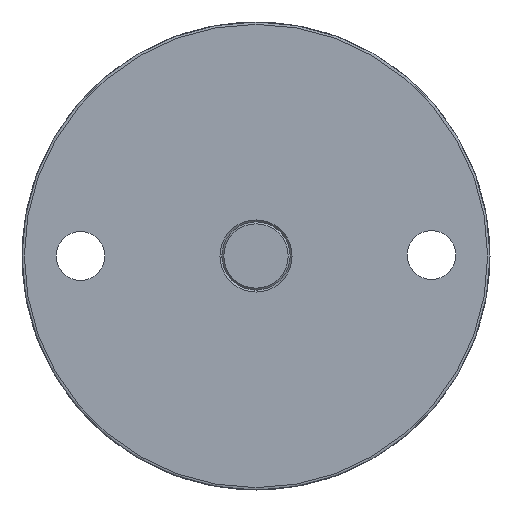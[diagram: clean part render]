
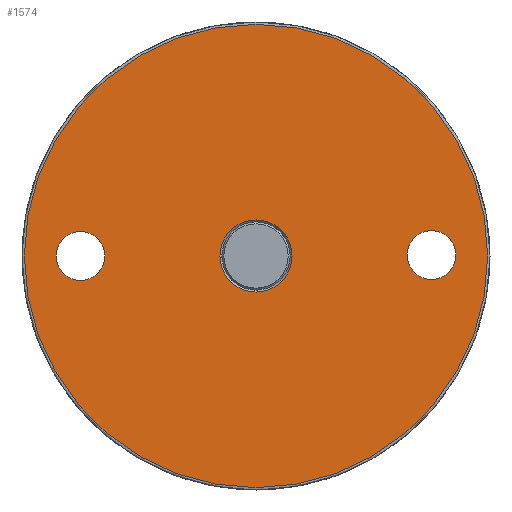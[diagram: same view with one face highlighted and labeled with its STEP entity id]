
A CAD part, left-side view. The second image highlights one B-rep face of the part: STEP entity #1574.
In plain terms, the highlighted planar face has unit normal (-1, 0, 0).
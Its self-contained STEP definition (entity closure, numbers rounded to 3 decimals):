
#1425=CARTESIAN_POINT('',(-523.608,-488.109,59.422));
#1426=VERTEX_POINT('',#1425);
#1434=CARTESIAN_POINT('',(-523.608,-488.109,-59.378));
#1435=VERTEX_POINT('',#1434);
#1436=CARTESIAN_POINT('',(-523.608,-488.109,0.022));
#1437=DIRECTION('',(-1.0,0.0,0.0));
#1438=DIRECTION('',(0.0,0.0,1.0));
#1439=AXIS2_PLACEMENT_3D('',#1436,#1437,#1438);
#1440=CIRCLE('',#1439,59.4);
#1441=EDGE_CURVE('',#1435,#1426,#1440,.T.);
#1443=CARTESIAN_POINT('',(-523.608,-488.109,0.022));
#1444=DIRECTION('',(-1.0,0.0,0.0));
#1445=DIRECTION('',(0.0,0.0,1.0));
#1446=AXIS2_PLACEMENT_3D('',#1443,#1444,#1445);
#1447=CIRCLE('',#1446,59.4);
#1448=EDGE_CURVE('',#1426,#1435,#1447,.T.);
#1505=CARTESIAN_POINT('',(-523.608,-606.909,118.822));
#1506=DIRECTION('',(-1.0,0.0,0.0));
#1507=DIRECTION('',(0.0,1.0,0.0));
#1508=AXIS2_PLACEMENT_3D('',#1505,#1506,#1507);
#1509=PLANE('',#1508);
#1510=ORIENTED_EDGE('',*,*,#1448,.T.);
#1511=ORIENTED_EDGE('',*,*,#1441,.T.);
#1512=EDGE_LOOP('',(#1510,#1511));
#1513=FACE_OUTER_BOUND('',#1512,.T.);
#1514=CARTESIAN_POINT('',(-523.608,-478.859,0.022));
#1515=VERTEX_POINT('',#1514);
#1516=CARTESIAN_POINT('',(-523.608,-497.359,0.022));
#1517=VERTEX_POINT('',#1516);
#1518=CARTESIAN_POINT('',(-523.608,-488.109,0.022));
#1519=DIRECTION('',(1.0,0.0,0.0));
#1520=DIRECTION('',(0.0,1.0,0.0));
#1521=AXIS2_PLACEMENT_3D('',#1518,#1519,#1520);
#1522=CIRCLE('',#1521,9.25);
#1523=EDGE_CURVE('',#1515,#1517,#1522,.T.);
#1524=ORIENTED_EDGE('',*,*,#1523,.T.);
#1525=CARTESIAN_POINT('',(-523.608,-488.109,0.022));
#1526=DIRECTION('',(1.0,0.0,0.0));
#1527=DIRECTION('',(0.0,1.0,0.0));
#1528=AXIS2_PLACEMENT_3D('',#1525,#1526,#1527);
#1529=CIRCLE('',#1528,9.25);
#1530=EDGE_CURVE('',#1517,#1515,#1529,.T.);
#1531=ORIENTED_EDGE('',*,*,#1530,.T.);
#1532=EDGE_LOOP('',(#1524,#1531));
#1533=FACE_BOUND('',#1532,.T.);
#1534=CARTESIAN_POINT('',(-523.608,-526.859,0.259));
#1535=VERTEX_POINT('',#1534);
#1536=CARTESIAN_POINT('',(-523.608,-539.359,0.259));
#1537=VERTEX_POINT('',#1536);
#1538=CARTESIAN_POINT('',(-523.608,-533.109,0.259));
#1539=DIRECTION('',(1.0,0.0,0.0));
#1540=DIRECTION('',(0.0,1.0,0.0));
#1541=AXIS2_PLACEMENT_3D('',#1538,#1539,#1540);
#1542=CIRCLE('',#1541,6.25);
#1543=EDGE_CURVE('',#1535,#1537,#1542,.T.);
#1544=ORIENTED_EDGE('',*,*,#1543,.T.);
#1545=CARTESIAN_POINT('',(-523.608,-533.109,0.259));
#1546=DIRECTION('',(1.0,0.0,0.0));
#1547=DIRECTION('',(0.0,1.0,0.0));
#1548=AXIS2_PLACEMENT_3D('',#1545,#1546,#1547);
#1549=CIRCLE('',#1548,6.25);
#1550=EDGE_CURVE('',#1537,#1535,#1549,.T.);
#1551=ORIENTED_EDGE('',*,*,#1550,.T.);
#1552=EDGE_LOOP('',(#1544,#1551));
#1553=FACE_BOUND('',#1552,.T.);
#1554=CARTESIAN_POINT('',(-523.608,-436.859,0.022));
#1555=VERTEX_POINT('',#1554);
#1556=CARTESIAN_POINT('',(-523.608,-449.359,0.022));
#1557=VERTEX_POINT('',#1556);
#1558=CARTESIAN_POINT('',(-523.608,-443.109,0.022));
#1559=DIRECTION('',(1.0,0.0,0.0));
#1560=DIRECTION('',(0.0,1.0,0.0));
#1561=AXIS2_PLACEMENT_3D('',#1558,#1559,#1560);
#1562=CIRCLE('',#1561,6.25);
#1563=EDGE_CURVE('',#1555,#1557,#1562,.T.);
#1564=ORIENTED_EDGE('',*,*,#1563,.T.);
#1565=CARTESIAN_POINT('',(-523.608,-443.109,0.022));
#1566=DIRECTION('',(1.0,0.0,0.0));
#1567=DIRECTION('',(0.0,1.0,0.0));
#1568=AXIS2_PLACEMENT_3D('',#1565,#1566,#1567);
#1569=CIRCLE('',#1568,6.25);
#1570=EDGE_CURVE('',#1557,#1555,#1569,.T.);
#1571=ORIENTED_EDGE('',*,*,#1570,.T.);
#1572=EDGE_LOOP('',(#1564,#1571));
#1573=FACE_BOUND('',#1572,.T.);
#1574=ADVANCED_FACE('',(#1513,#1533,#1553,#1573),#1509,.T.);
